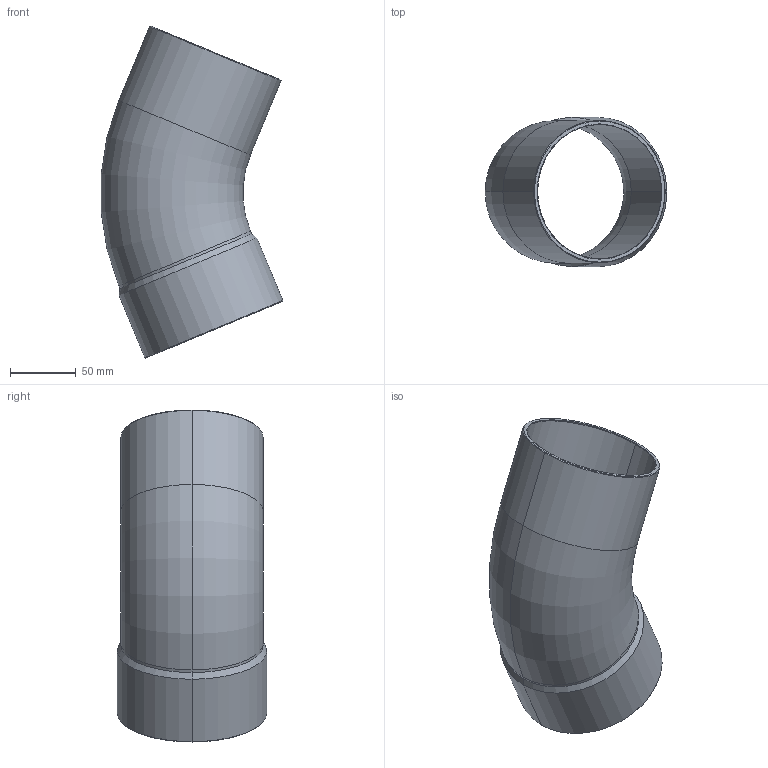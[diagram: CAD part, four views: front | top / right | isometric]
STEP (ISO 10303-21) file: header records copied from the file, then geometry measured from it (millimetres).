
FILE_DESCRIPTION((''),'2;1');
FILE_NAME('P:\Bouwmaten\z-maattekeningen 3D\5000\5040\15040108.stp','2005-10-13T13:18:51',('Kris'),(''),'Autodesk Inventor 8','Autodesk Inventor 8','');
FILE_SCHEMA(('AUTOMOTIVE_DESIGN { 1 0 10303 214 1 1 1 1 }'));
Length unit declared in the file: millimetre
Products named in the file (1): 15040108
Bounding box: 137.72 x 113.2 x 251.66 mm (x, y, z)
Volume: 193514.1 mm3; surface area: 150652.9 mm2
Topology: 1 solids, 1 shells, 34 faces, 72 edges, 40 vertices
Faces by surface type: cone 16, cylinder 12, torus 4, plane 2
Entity records: 935 total; most frequent: DIRECTION 186, CARTESIAN_POINT 147, ORIENTED_EDGE 144, AXIS2_PLACEMENT_3D 79, EDGE_CURVE 72, CIRCLE 44, VERTEX_POINT 40, EDGE_LOOP 36
